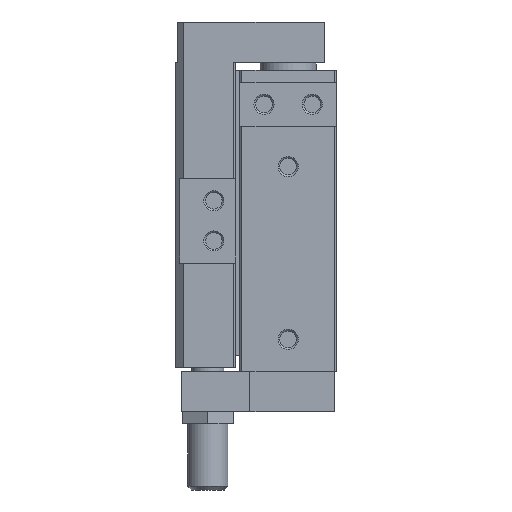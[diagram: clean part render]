
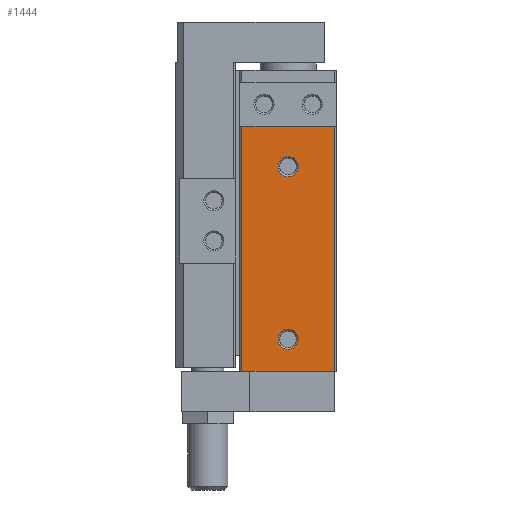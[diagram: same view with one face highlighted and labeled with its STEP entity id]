
A CAD part, left-side view. The second image highlights one B-rep face of the part: STEP entity #1444.
In plain terms, the highlighted planar face has unit normal (-1, 0, 0).
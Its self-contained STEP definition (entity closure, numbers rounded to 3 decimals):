
#1444 = ADVANCED_FACE( '', ( #3060, #3061, #3062 ), #3063, .T. );
#3060 = FACE_BOUND( '', #4688, .T. );
#3061 = FACE_BOUND( '', #4689, .T. );
#3062 = FACE_OUTER_BOUND( '', #4690, .T. );
#3063 = PLANE( '', #4691 );
#4688 = EDGE_LOOP( '', ( #8492 ) );
#4689 = EDGE_LOOP( '', ( #8493 ) );
#4690 = EDGE_LOOP( '', ( #8494, #8495, #8496, #8497 ) );
#4691 = AXIS2_PLACEMENT_3D( '', #8498, #8499, #8500 );
#8492 = ORIENTED_EDGE( '', *, *, #9749, .T. );
#8493 = ORIENTED_EDGE( '', *, *, #10150, .T. );
#8494 = ORIENTED_EDGE( '', *, *, #10230, .T. );
#8495 = ORIENTED_EDGE( '', *, *, #10065, .F. );
#8496 = ORIENTED_EDGE( '', *, *, #9422, .F. );
#8497 = ORIENTED_EDGE( '', *, *, #9883, .T. );
#8498 = CARTESIAN_POINT( '', ( -31., 23.5, -75. ) );
#8499 = DIRECTION( '', ( -1., 0., 0. ) );
#8500 = DIRECTION( '', ( 0., 0., 1. ) );
#9422 = EDGE_CURVE( '', #11383, #11384, #11385, .T. );
#9749 = EDGE_CURVE( '', #11894, #11894, #11895, .T. );
#9883 = EDGE_CURVE( '', #11383, #12074, #12076, .T. );
#10065 = EDGE_CURVE( '', #11384, #12301, #12302, .T. );
#10150 = EDGE_CURVE( '', #12399, #12399, #12400, .T. );
#10230 = EDGE_CURVE( '', #12074, #12301, #12486, .T. );
#11383 = VERTEX_POINT( '', #14017 );
#11384 = VERTEX_POINT( '', #14018 );
#11385 = LINE( '', #14019, #14020 );
#11894 = VERTEX_POINT( '', #14753 );
#11895 = CIRCLE( '', #14754, 2.5 );
#12074 = VERTEX_POINT( '', #15014 );
#12076 = LINE( '', #15017, #15018 );
#12301 = VERTEX_POINT( '', #15336 );
#12302 = LINE( '', #15337, #15338 );
#12399 = VERTEX_POINT( '', #15463 );
#12400 = CIRCLE( '', #15464, 2.5 );
#12486 = LINE( '', #15570, #15571 );
#14017 = CARTESIAN_POINT( '', ( -31., 23.5, -75. ) );
#14018 = CARTESIAN_POINT( '', ( -31., 23.5, -14. ) );
#14019 = CARTESIAN_POINT( '', ( -31., 23.5, -75. ) );
#14020 = VECTOR( '', #16381, 1000. );
#14753 = CARTESIAN_POINT( '', ( -31., 12., -69.5 ) );
#14754 = AXIS2_PLACEMENT_3D( '', #16708, #16709, #16710 );
#15014 = CARTESIAN_POINT( '', ( -31., 0.5, -75. ) );
#15017 = CARTESIAN_POINT( '', ( -31., 23.5, -75. ) );
#15018 = VECTOR( '', #16826, 1000. );
#15336 = CARTESIAN_POINT( '', ( -31., 0.5, -14. ) );
#15337 = CARTESIAN_POINT( '', ( -31., 24., -14. ) );
#15338 = VECTOR( '', #16974, 1000. );
#15463 = CARTESIAN_POINT( '', ( -31., 12., -26.5 ) );
#15464 = AXIS2_PLACEMENT_3D( '', #17027, #17028, #17029 );
#15570 = CARTESIAN_POINT( '', ( -31., 0.5, -75. ) );
#15571 = VECTOR( '', #17059, 1000. );
#16381 = DIRECTION( '', ( 0., 0., 1. ) );
#16708 = CARTESIAN_POINT( '', ( -31., 12., -67. ) );
#16709 = DIRECTION( '', ( 1., 0., 0. ) );
#16710 = DIRECTION( '', ( 0., 0., -1. ) );
#16826 = DIRECTION( '', ( 0., -1., 0. ) );
#16974 = DIRECTION( '', ( 0., -1., 0. ) );
#17027 = CARTESIAN_POINT( '', ( -31., 12., -24. ) );
#17028 = DIRECTION( '', ( 1., 0., 0. ) );
#17029 = DIRECTION( '', ( 0., 0., -1. ) );
#17059 = DIRECTION( '', ( 0., 0., 1. ) );
